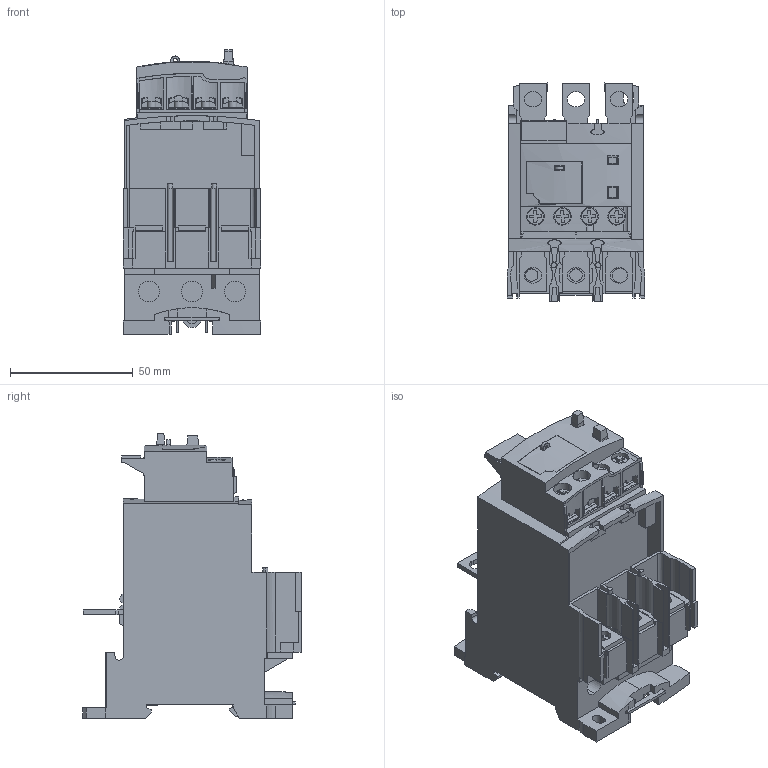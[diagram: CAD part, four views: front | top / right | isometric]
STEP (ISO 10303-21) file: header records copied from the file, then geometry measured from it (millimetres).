
FILE_DESCRIPTION((''),'2;1');
FILE_NAME('LRD3XXL6-3D_ASM','2022-09-09T13:27:04',('SESA507772'),('Schneider-Electric'),'CREO PARAMETRIC BY PTC INC, 2021284','CREO PARAMETRIC BY PTC INC, 2021284','');
FILE_SCHEMA(('AP242_MANAGED_MODEL_BASED_3D_ENGINEERING_MIM_LF { 1 0 10303 442 1 1 4 }'));
Length unit declared in the file: millimetre
Products named in the file (2): LRD3XXL6; LRD3XXL6-3D_ASM
Assembly tree (1 placements, depth 2):
  LRD3XXL6-3D_ASM
    LRD3XXL6
Bounding box: 56 x 88.74 x 115.78 mm (x, y, z)
Volume: 262934.4 mm3; surface area: 55670.7 mm2
Topology: 2 solids, 2 shells, 1052 faces, 2943 edges, 1947 vertices
Faces by surface type: plane 840, cylinder 205, extrusion 7
Entity records: 46700 total; most frequent: CARTESIAN_POINT 6686, ORIENTED_EDGE 5886, DIRECTION 5334, PRESENTATION_STYLE_ASSIGNMENT 3261, STYLED_ITEM 2945, CURVE_STYLE 2943, EDGE_CURVE 2943, VECTOR 2436
